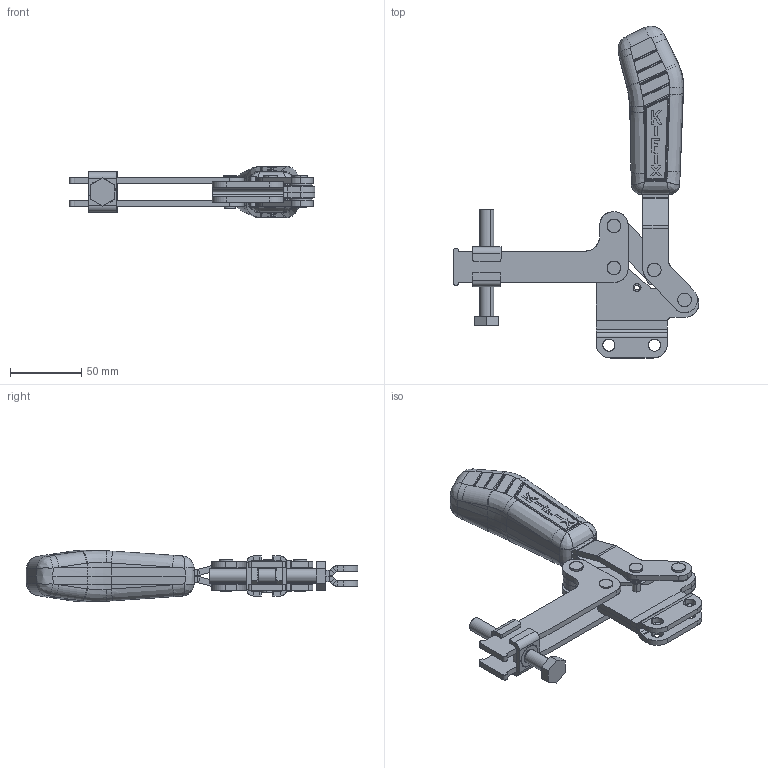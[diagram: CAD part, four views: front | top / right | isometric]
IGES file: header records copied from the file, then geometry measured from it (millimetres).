
Start section: SolidWorks IGES file using analytic representation for surfaces
Global section: file name: C:\Projetos\Grampos\KF-631\KF-631 RL\KF-631 RL.IGS; native system: SolidWorks 2013; preprocessor: SolidWorks 2013; author: Ricardo; date: 140801.160719; units: millimetre
Bounding box: 172 x 232.38 x 35.98 mm (x, y, z)
Surface area: 88767.1 mm2 (no closed solid volume)
Topology: 0 solids, 0 shells, 894 faces, 10110 edges, 10083 vertices
Faces by surface type: bspline 471, revolution 423
